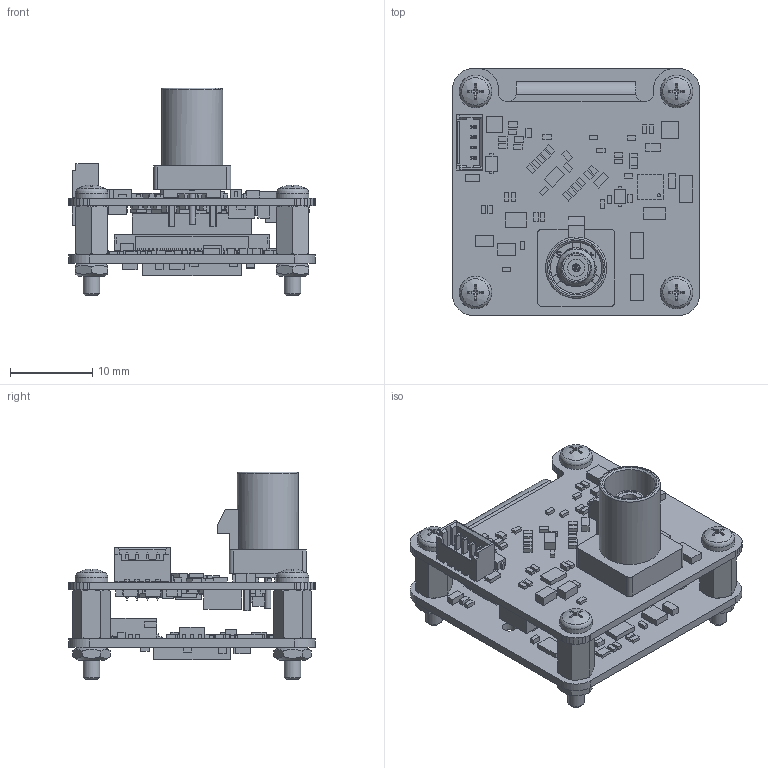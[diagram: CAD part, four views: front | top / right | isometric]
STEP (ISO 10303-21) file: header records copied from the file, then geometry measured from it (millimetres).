
FILE_DESCRIPTION(/* description */ ('289-20-2-15-00'),/* implementation_level */ '2;1');
FILE_NAME(/* name */ 'D:\HiDrive\1_Konstruktion\1_KUNDEN\TIS\289-20_MIPI-Dokumentation\KundenStepModell (KSM)\289-20-2_MIPI-CX-Modul (Kombi_SER953-Sensorb)\KSM_289-20-2-15-00_CX-R120_IMX415-R110.stp',/* time_stamp */ '2021-08-15T21:16:15+02:00',/* author */ ('Westermann'),/* organization */ ('TIS, Bremen-Germany'),/* preprocessor_version */ 'ST-DEVELOPER v18.1',/* originating_system */ 'Autodesk Inventor 2021',/* authorisation */ '');
FILE_SCHEMA (('AUTOMOTIVE_DESIGN { 1 0 10303 214 3 1 1 }'));
Length unit declared in the file: millimetre
Products named in the file (6): 289-20-2-15-00_CX-R120_IMX415-R110; ISO 4032 - M2; ISO 7045 - M2 x 4 - 4.8 - H; IMX415_MIPI_HB_R1-10; TISMIPI_SER953_R1-20; Distanzbolzen-IA-M2x6_0100018_SIBALCO
Assembly tree (14 placements, depth 2):
  289-20-2-15-00_CX-R120_IMX415-R110
    ISO 4032 - M2  x4
    ISO 7045 - M2 x 4 - 4.8 - H  x4
    IMX415_MIPI_HB_R1-10
    TISMIPI_SER953_R1-20
    Distanzbolzen-IA-M2x6_0100018_SIBALCO  x4
Bounding box: 30.1 x 30.1 x 25.34 mm (x, y, z)
Volume: 3383.7 mm3; surface area: 7745.4 mm2
Topology: 17 solids, 19 shells, 3522 faces, 9567 edges, 6230 vertices
Faces by surface type: plane 3057, cylinder 294, cone 138, torus 29, sphere 4
Full cylindrical faces by diameter (mm): 0.388 x1, 0.5 x5, 0.613 x1, 0.75 x1, 0.95 x2, 1.2 x1, 1.4 x4, 1.567 x8, 1.7 x2, 1.783 x4, 2 x8, 2.08 x1, 2.1 x8, 3.05 x2, 3.2 x1, 3.68 x1, 3.8 x1, 4.35 x1, 4.6 x1, 6.25 x1, 7.45 x1
Entity records: 106937 total; most frequent: CARTESIAN_POINT 18559, ORIENTED_EDGE 18098, DIRECTION 16321, EDGE_CURVE 9049, LINE 8285, VECTOR 8285, VERTEX_POINT 5906, AXIS2_PLACEMENT_3D 4018
